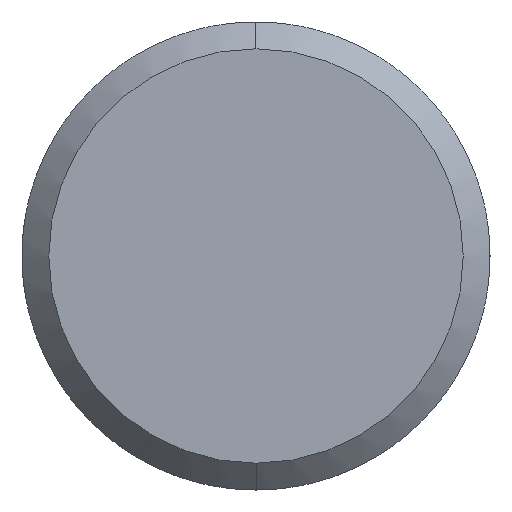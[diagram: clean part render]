
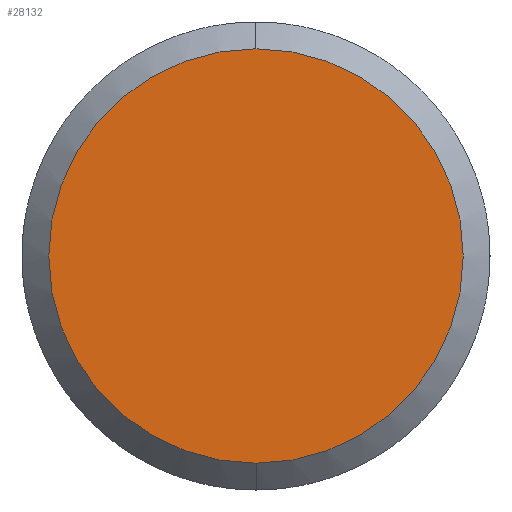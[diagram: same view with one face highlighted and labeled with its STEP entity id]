
A CAD part, left-side view. The second image highlights one B-rep face of the part: STEP entity #28132.
In plain terms, the highlighted planar face has unit normal (-1, 0, 0).
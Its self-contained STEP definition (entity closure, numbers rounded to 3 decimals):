
#2945 = AXIS2_PLACEMENT_3D ( 'NONE', #8327, #34817, #12134 ) ;
#4199 = VERTEX_POINT ( 'NONE', #41675 ) ;
#8327 = CARTESIAN_POINT ( 'NONE',  ( 0., 0., 0. ) ) ;
#8662 = CARTESIAN_POINT ( 'NONE',  ( 0., 0., 0. ) ) ;
#12134 = DIRECTION ( 'NONE',  ( 0., 0., 1. ) ) ;
#12256 = FACE_OUTER_BOUND ( 'NONE', #48130, .T. ) ;
#12301 = CIRCLE ( 'NONE', #26057, 15.5 ) ;
#12472 = DIRECTION ( 'NONE',  ( 0., 0., 1. ) ) ;
#14911 = ORIENTED_EDGE ( 'NONE', *, *, #48637, .T. ) ;
#15293 = EDGE_CURVE ( 'NONE', #38083, #4199, #12301, .T. ) ;
#16364 = DIRECTION ( 'NONE',  ( -1., 0., 0. ) ) ;
#23277 = PLANE ( 'NONE',  #2945 ) ;
#26057 = AXIS2_PLACEMENT_3D ( 'NONE', #8662, #35143, #12472 ) ;
#28132 = ADVANCED_FACE ( 'NONE', ( #12256 ), #23277, .T. ) ;
#33561 = CARTESIAN_POINT ( 'NONE',  ( 0., 0., 15.5 ) ) ;
#34817 = DIRECTION ( 'NONE',  ( -1., 0., 0. ) ) ;
#35143 = DIRECTION ( 'NONE',  ( -1., 0., 0. ) ) ;
#35802 = CIRCLE ( 'NONE', #47963, 15.5 ) ;
#38083 = VERTEX_POINT ( 'NONE', #33561 ) ;
#39010 = CARTESIAN_POINT ( 'NONE',  ( 0., 0., 0. ) ) ;
#41675 = CARTESIAN_POINT ( 'NONE',  ( 0., 0., -15.5 ) ) ;
#42783 = DIRECTION ( 'NONE',  ( 0., 0., 1. ) ) ;
#46887 = ORIENTED_EDGE ( 'NONE', *, *, #15293, .T. ) ;
#47963 = AXIS2_PLACEMENT_3D ( 'NONE', #39010, #16364, #42783 ) ;
#48130 = EDGE_LOOP ( 'NONE', ( #14911, #46887 ) ) ;
#48637 = EDGE_CURVE ( 'NONE', #4199, #38083, #35802, .T. ) ;
